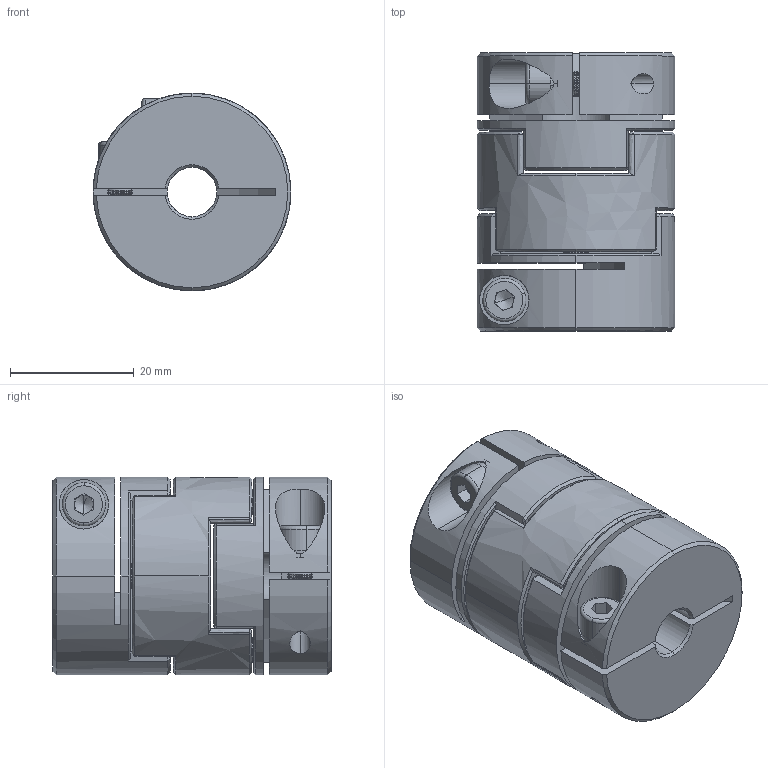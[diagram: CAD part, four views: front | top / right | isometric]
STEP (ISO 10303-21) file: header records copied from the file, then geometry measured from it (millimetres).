
FILE_DESCRIPTION (( 'STEP AP203' ), '1' );
FILE_NAME ('LZ-B-D32L45-8-12.STEP', '2021-10-29T06:39:12', ( '' ), ( '' ), 'SwSTEP 2.0', 'SolidWorks 2018', '' );
FILE_SCHEMA (( 'CONFIG_CONTROL_DESIGN' ));
Length unit declared in the file: millimetre
Products named in the file (1): LZ-B-D32L45-8-12
Bounding box: 32 x 45 x 32 mm (x, y, z)
Volume: 29232.1 mm3; surface area: 13177 mm2
Topology: 1 solids, 1 shells, 356 faces, 856 edges, 498 vertices
Faces by surface type: cone 118, cylinder 92, plane 84, bspline 54, torus 8
Entity records: 11145 total; most frequent: CARTESIAN_POINT 3197, ORIENTED_EDGE 1704, DIRECTION 1578, EDGE_CURVE 852, AXIS2_PLACEMENT_3D 619, VERTEX_POINT 498, EDGE_LOOP 382, ADVANCED_FACE 356
